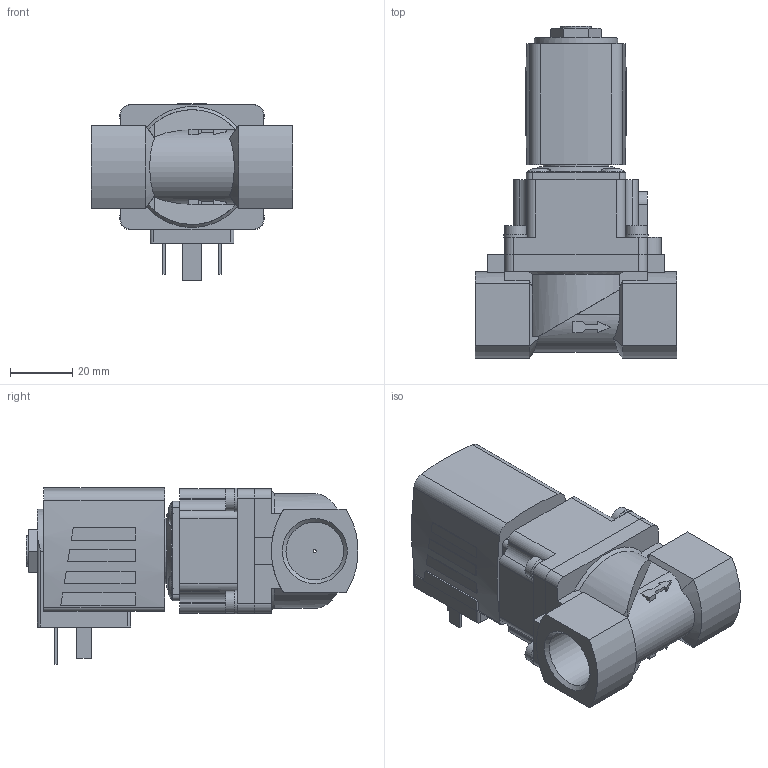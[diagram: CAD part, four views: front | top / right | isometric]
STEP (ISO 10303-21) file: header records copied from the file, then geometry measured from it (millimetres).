
FILE_DESCRIPTION(/* description */ ('STEP AP214'),/* implementation_level */ '2;1');
FILE_NAME(/* name */ '5404-371821-Servo-assisted_2_2_way_piston_valve',/* time_stamp */ '2024-02-20T06:53:37+01:00',/* author */ ('License CC BY-ND 4.0'),/* organization */ ('CADENAS'),/* preprocessor_version */ 'ST-DEVELOPER v19.3',/* originating_system */ 'PARTsolutions',/* authorisation */ ' ');
FILE_SCHEMA (('AUTOMOTIVE_DESIGN {1 0 10303 214 3 1 1}'));
Length unit declared in the file: millimetre
Products named in the file (4): 5404-371821-Servo-assisted 2/2 way piston valve; 5282g-8413MS000-2/2-Wege-Magnetventil_Gehaeuse; 5282d-13MSAU3N-2/2-Wege-Magnetventil_Deckel; AC10ex-5NA38-Plan-Coil
Assembly tree (3 placements, depth 2):
  5404-371821-Servo-assisted 2/2 way piston valve
    5282g-8413MS000-2/2-Wege-Magnetventil_Gehaeuse
    5282d-13MSAU3N-2/2-Wege-Magnetventil_Deckel
    AC10ex-5NA38-Plan-Coil
Bounding box: 65 x 107.02 x 56.91 mm (x, y, z)
Volume: 141045.5 mm3; surface area: 31003.2 mm2
Topology: 3 solids, 3 shells, 285 faces, 711 edges, 466 vertices
Faces by surface type: plane 187, cylinder 75, cone 18, torus 5
Full cylindrical faces by diameter (mm): 1 x1, 2.013 x1, 4 x4, 7 x4, 7.5 x4, 7.6 x4, 9.74 x1, 18.631 x2, 21 x1
Entity records: 9073 total; most frequent: CARTESIAN_POINT 1565, DIRECTION 1432, ORIENTED_EDGE 1340, EDGE_CURVE 670, AXIS2_PLACEMENT_3D 515, VERTEX_POINT 456, LINE 402, VECTOR 402
